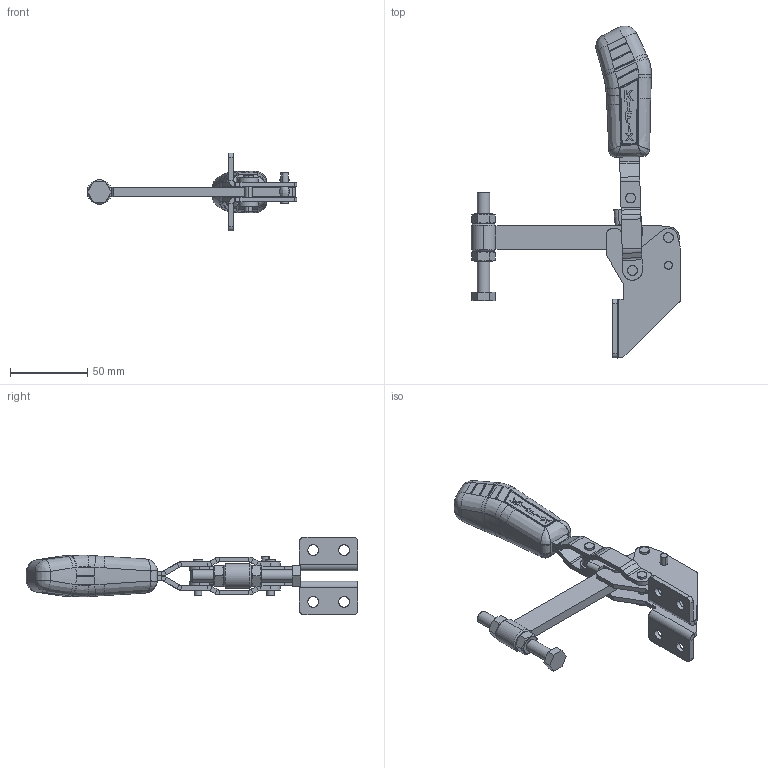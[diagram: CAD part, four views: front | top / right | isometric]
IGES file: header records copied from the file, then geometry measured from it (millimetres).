
Start section: SolidWorks IGES file using analytic representation for surfaces
Global section: file name: C:\Projetos\Grampos\KF-019\KF-019 DS\KF-019 DS.IGS; native system: SolidWorks 2013; preprocessor: SolidWorks 2013; author: Ricardo; date: 140731.093846; units: millimetre
Bounding box: 135.88 x 215.17 x 50.5 mm (x, y, z)
Surface area: 50783.7 mm2 (no closed solid volume)
Topology: 0 solids, 0 shells, 707 faces, 7595 edges, 7582 vertices
Faces by surface type: bspline 450, revolution 257
